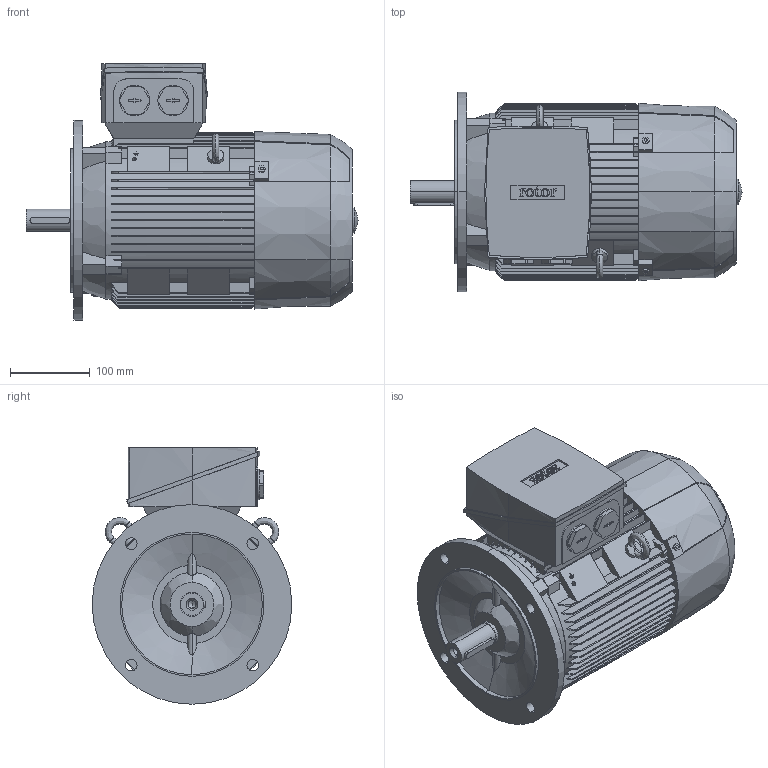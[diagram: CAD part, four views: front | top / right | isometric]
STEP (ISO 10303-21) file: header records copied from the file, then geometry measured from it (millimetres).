
FILE_DESCRIPTION (( 'STEP AP203' ), '1' );
FILE_NAME ('6RN112M02E26 IM3041.STEP', '2017-01-03T15:01:36', ( 'rotor' ), ( 'Hewlett-Packard Company' ), 'SwSTEP 2.0', 'SolidWorks 2015', '' );
FILE_SCHEMA (( 'CONFIG_CONTROL_DESIGN' ));
Length unit declared in the file: millimetre
Products named in the file (1): 6RN112M02E26 IM3041
Bounding box: 415.5 x 250 x 321 mm (x, y, z)
Volume: 13418167.1 mm3; surface area: 636271.4 mm2
Topology: 1 solids, 1 shells, 846 faces, 2349 edges, 1549 vertices
Faces by surface type: plane 479, bspline 183, cylinder 156, cone 28
Entity records: 32766 total; most frequent: CARTESIAN_POINT 12533, ORIENTED_EDGE 4690, DIRECTION 3486, EDGE_CURVE 2345, VERTEX_POINT 1549, LINE 1322, VECTOR 1322, AXIS2_PLACEMENT_3D 1082
